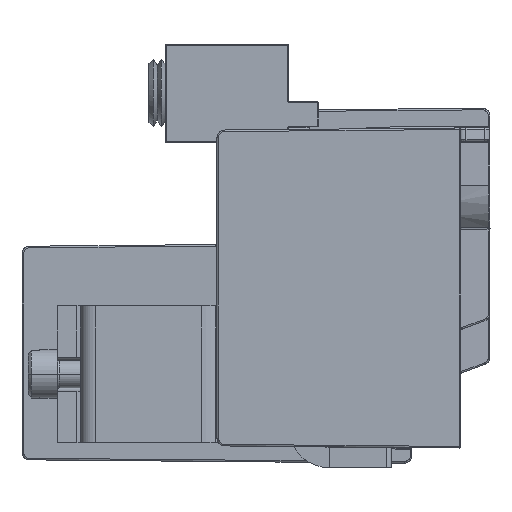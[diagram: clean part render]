
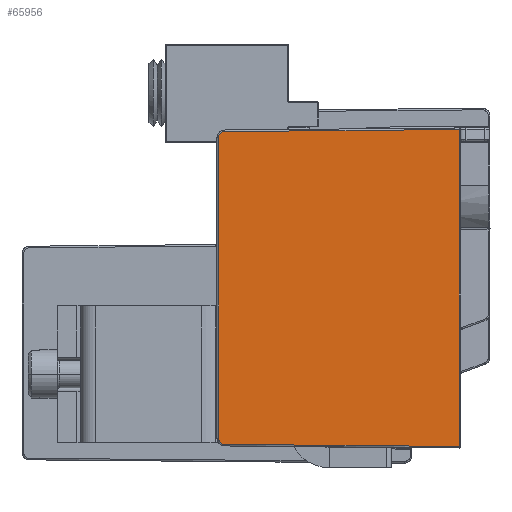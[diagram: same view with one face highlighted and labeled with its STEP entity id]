
A CAD part, left-side view. The second image highlights one B-rep face of the part: STEP entity #65956.
In plain terms, the highlighted planar face has unit normal (-1, 0.009, 0).
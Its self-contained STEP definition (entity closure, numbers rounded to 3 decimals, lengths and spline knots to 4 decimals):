
#16659=DIRECTION('',(0.,0.,-1.));
#16660=VECTOR('',#16659,2.0316);
#16661=CARTESIAN_POINT('',(-2.5983,0.1971,
1.0783));
#16662=LINE('',#16661,#16660);
#16663=DIRECTION('',(0.009,1.,0.009));
#16664=VECTOR('',#16663,1.5035);
#16665=CARTESIAN_POINT('',(-2.5983,0.1971,
-0.9533));
#16666=LINE('',#16665,#16664);
#16667=CARTESIAN_POINT('',(-2.5852,1.7004,
-0.9402));
#16668=CARTESIAN_POINT('',(-2.5851,1.7048,
-0.9401));
#16669=CARTESIAN_POINT('',(-2.5851,1.713,
-0.9387));
#16670=CARTESIAN_POINT('',(-2.585,1.7235,
-0.9332));
#16671=CARTESIAN_POINT('',(-2.5849,1.731,
-0.9261));
#16672=CARTESIAN_POINT('',(-2.5849,1.736,
-0.9185));
#16673=CARTESIAN_POINT('',(-2.5848,1.7391,
-0.9104));
#16674=CARTESIAN_POINT('',(-2.5848,1.7401,
-0.9037));
#16675=CARTESIAN_POINT('',(-2.5848,1.7401,
-0.9002));
#16677=DIRECTION('',(0.,0.,1.));
#16678=VECTOR('',#16677,1.9253);
#16679=CARTESIAN_POINT('',(-2.5848,1.7401,
-0.9002));
#16680=LINE('',#16679,#16678);
#16681=CARTESIAN_POINT('',(-2.5848,1.7401,
1.0252));
#16682=CARTESIAN_POINT('',(-2.5848,1.7401,
1.0297));
#16683=CARTESIAN_POINT('',(-2.5848,1.7386,
1.038));
#16684=CARTESIAN_POINT('',(-2.5849,1.7332,
1.0486));
#16685=CARTESIAN_POINT('',(-2.5849,1.726,
1.0561));
#16686=CARTESIAN_POINT('',(-2.585,1.7185,
1.061));
#16687=CARTESIAN_POINT('',(-2.5851,1.7105,
1.0641));
#16688=CARTESIAN_POINT('',(-2.5851,1.7039,
1.0651));
#16689=CARTESIAN_POINT('',(-2.5852,1.7004,
1.0652));
#16691=DIRECTION('',(-0.009,-1.,0.009));
#16692=VECTOR('',#16691,1.5035);
#16693=CARTESIAN_POINT('',(-2.5852,1.7004,
1.0652));
#16694=LINE('',#16693,#16692);
#39563=CARTESIAN_POINT('',(-2.5983,0.1971,
1.0783));
#39564=CARTESIAN_POINT('',(-2.5983,0.1971,
-0.9533));
#39565=VERTEX_POINT('',#39563);
#39566=VERTEX_POINT('',#39564);
#39583=CARTESIAN_POINT('',(-2.5852,1.7004,
-0.9402));
#39584=VERTEX_POINT('',#39583);
#39586=VERTEX_POINT('',#16675);
#39587=CARTESIAN_POINT('',(-2.5848,1.7401,
1.0252));
#39588=VERTEX_POINT('',#39587);
#39590=VERTEX_POINT('',#16689);
#65941=CARTESIAN_POINT('',(-2.6,0.,-1.1672));
#65942=DIRECTION('',(-1.,0.009,0.));
#65943=DIRECTION('',(0.,0.,1.));
#65944=AXIS2_PLACEMENT_3D('',#65941,#65942,#65943);
#65945=PLANE('',#65944);
#65947=ORIENTED_EDGE('',*,*,#65946,.T.);
#65949=ORIENTED_EDGE('',*,*,#65948,.T.);
#65950=ORIENTED_EDGE('',*,*,#65850,.T.);
#65951=ORIENTED_EDGE('',*,*,#65865,.T.);
#65952=ORIENTED_EDGE('',*,*,#65919,.T.);
#65953=ORIENTED_EDGE('',*,*,#65930,.T.);
#65954=EDGE_LOOP('',(#65947,#65949,#65950,#65951,#65952,#65953));
#65955=FACE_OUTER_BOUND('',#65954,.F.);
#65956=ADVANCED_FACE('',(#65955),#65945,.T.);
#16676=B_SPLINE_CURVE_WITH_KNOTS('',3,(#16667,#16668,#16669,#16670,#16671,
#16672,#16673,#16674,#16675),.UNSPECIFIED.,.F.,.F.,(4,1,1,1,1,1,4),(0.,
0.1667,0.3333,0.5,0.6667,0.8333,
1.),.UNSPECIFIED.);
#16690=B_SPLINE_CURVE_WITH_KNOTS('',3,(#16681,#16682,#16683,#16684,#16685,
#16686,#16687,#16688,#16689),.UNSPECIFIED.,.F.,.F.,(4,1,1,1,1,1,4),(0.,
0.1667,0.3333,0.5,0.6667,0.8333,
1.),.UNSPECIFIED.);
#65850=EDGE_CURVE('',#39584,#39586,#16676,.T.);
#65865=EDGE_CURVE('',#39586,#39588,#16680,.T.);
#65919=EDGE_CURVE('',#39588,#39590,#16690,.T.);
#65930=EDGE_CURVE('',#39590,#39565,#16694,.T.);
#65946=EDGE_CURVE('',#39565,#39566,#16662,.T.);
#65948=EDGE_CURVE('',#39566,#39584,#16666,.T.);
